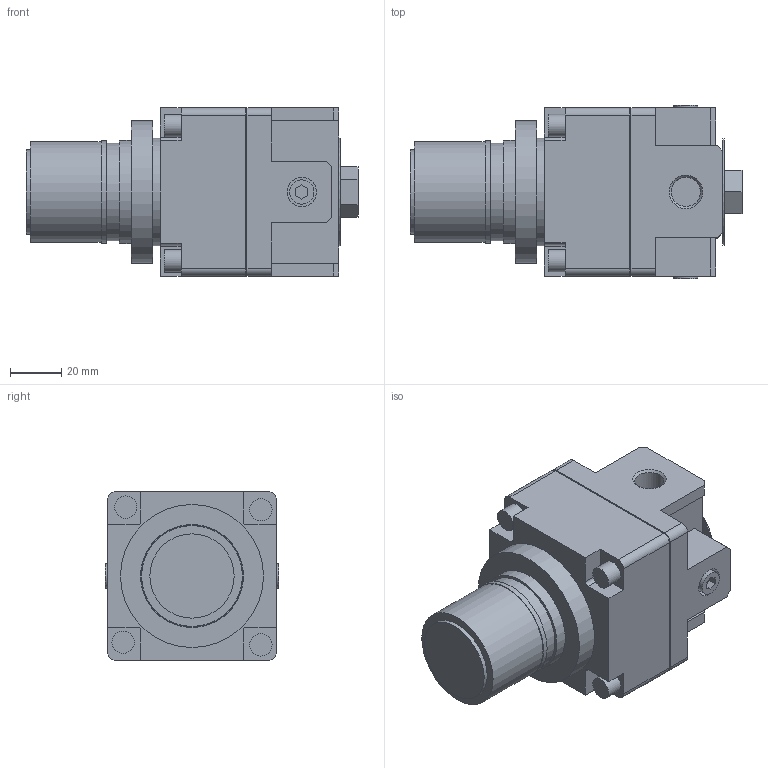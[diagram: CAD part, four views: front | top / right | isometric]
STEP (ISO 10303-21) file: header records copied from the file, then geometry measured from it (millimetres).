
FILE_DESCRIPTION((''),'2;1');
FILE_NAME('F:\AirCom-Produktdokumentation\Druckregler\RV\CAD\CAD AirCom\3D\B-RV3-02.stp','2008-10-15T07:47:17',('Frank Schroers'),(''),'Autodesk Inventor 2008','Autodesk Inventor 2008','');
FILE_SCHEMA(('AUTOMOTIVE_DESIGN { 1 0 10303 214 1 1 1 1 }'));
Length unit declared in the file: millimetre
Products named in the file (1): B-RV3-02
Bounding box: 130.1 x 68 x 66 mm (x, y, z)
Volume: 330666.6 mm3; surface area: 41120 mm2
Topology: 1 solids, 1 shells, 205 faces, 501 edges, 332 vertices
Faces by surface type: plane 155, cylinder 46, bspline 2, cone 2
Full cylindrical faces by diameter (mm): 1.315 x1, 3.06 x1, 8.7 x4, 9.49 x2, 11.45 x2, 11.49 x2, 33 x1, 38.3 x1, 39.5 x1, 40 x1, 40.38 x1, 42 x2, 56 x1
Entity records: 5911 total; most frequent: CARTESIAN_POINT 1047, DIRECTION 985, ORIENTED_EDGE 952, EDGE_CURVE 476, VECTOR 375, LINE 375, VERTEX_POINT 331, AXIS2_PLACEMENT_3D 305
